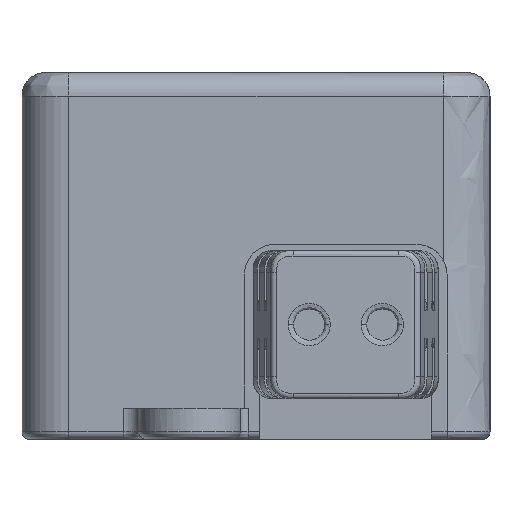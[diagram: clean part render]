
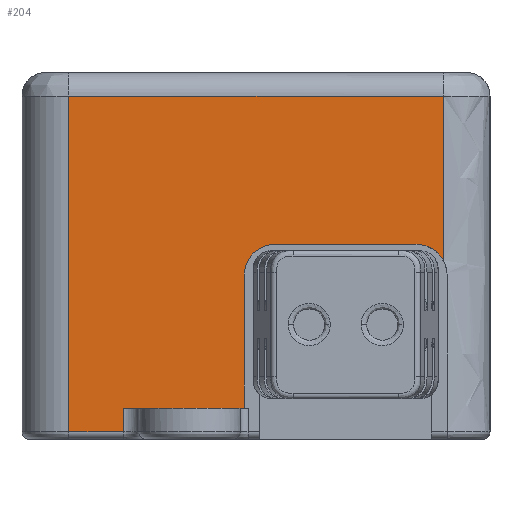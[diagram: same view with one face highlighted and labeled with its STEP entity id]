
A CAD part, left-side view. The second image highlights one B-rep face of the part: STEP entity #204.
In plain terms, the highlighted planar face has unit normal (-1, 0, 0).
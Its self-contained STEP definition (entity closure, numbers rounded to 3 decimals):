
#204=ADVANCED_FACE('',(#514),#4884,.T.);
#514=FACE_OUTER_BOUND('',#816,.T.);
#816=EDGE_LOOP('',(#1614,#1615,#1616,#1617,#1618,#1619,#1620,#1621,#1622,
#1623));
#1614=ORIENTED_EDGE('',*,*,#2787,.F.);
#1615=ORIENTED_EDGE('',*,*,#2984,.T.);
#1616=ORIENTED_EDGE('',*,*,#2718,.F.);
#1617=ORIENTED_EDGE('',*,*,#2985,.T.);
#1618=ORIENTED_EDGE('',*,*,#2996,.T.);
#1619=ORIENTED_EDGE('',*,*,#2735,.F.);
#1620=ORIENTED_EDGE('',*,*,#2704,.T.);
#1621=ORIENTED_EDGE('',*,*,#2770,.F.);
#1622=ORIENTED_EDGE('',*,*,#2983,.F.);
#1623=ORIENTED_EDGE('',*,*,#2795,.F.);
#2704=EDGE_CURVE('',#4304,#4305,#3440,.T.);
#2718=EDGE_CURVE('',#4312,#4313,#3698,.T.);
#2735=EDGE_CURVE('',#4304,#4326,#3707,.T.);
#2770=EDGE_CURVE('',#4338,#4305,#3720,.T.);
#2787=EDGE_CURVE('',#4344,#4345,#3724,.T.);
#2795=EDGE_CURVE('',#4345,#4349,#3727,.T.);
#2983=EDGE_CURVE('',#4349,#4338,#3840,.T.);
#2984=EDGE_CURVE('',#4344,#4313,#3841,.T.);
#2985=EDGE_CURVE('',#4312,#4484,#3842,.T.);
#2996=EDGE_CURVE('',#4484,#4326,#3576,.T.);
#3440=(
BOUNDED_CURVE()
B_SPLINE_CURVE(2,(#6550,#6551,#6552),.UNSPECIFIED.,.F.,.F.)
B_SPLINE_CURVE_WITH_KNOTS((3,3),(-2.358,0.),.UNSPECIFIED.)
CURVE()
GEOMETRIC_REPRESENTATION_ITEM()
RATIONAL_B_SPLINE_CURVE((1.,0.861,1.))
REPRESENTATION_ITEM('')
);
#3576=(
BOUNDED_CURVE()
B_SPLINE_CURVE(2,(#7342,#7343,#7344),.UNSPECIFIED.,.F.,.F.)
B_SPLINE_CURVE_WITH_KNOTS((3,3),(-4.,0.),.UNSPECIFIED.)
CURVE()
GEOMETRIC_REPRESENTATION_ITEM()
RATIONAL_B_SPLINE_CURVE((1.,0.707,1.))
REPRESENTATION_ITEM('')
);
#3698=B_SPLINE_CURVE_WITH_KNOTS('',1,(#6596,#6597),.UNSPECIFIED.,.F.,.F.,
(2,2),(0.,7.75),.UNSPECIFIED.);
#3707=B_SPLINE_CURVE_WITH_KNOTS('',1,(#6646,#6647),.UNSPECIFIED.,.F.,.F.,
(2,2),(0.,9.),.UNSPECIFIED.);
#3720=B_SPLINE_CURVE_WITH_KNOTS('',1,(#6744,#6745),.UNSPECIFIED.,.F.,.F.,
(2,2),(0.,10.532),.UNSPECIFIED.);
#3724=B_SPLINE_CURVE_WITH_KNOTS('',1,(#6795,#6796),.UNSPECIFIED.,.F.,.F.,
(2,2),(0.,3.5),.UNSPECIFIED.);
#3727=B_SPLINE_CURVE_WITH_KNOTS('',1,(#6816,#6817),.UNSPECIFIED.,.F.,.F.,
(2,2),(0.,21.5),.UNSPECIFIED.);
#3840=B_SPLINE_CURVE_WITH_KNOTS('',1,(#7311,#7312),.UNSPECIFIED.,.F.,.F.,
(2,2),(0.,24.),.UNSPECIFIED.);
#3841=B_SPLINE_CURVE_WITH_KNOTS('',1,(#7313,#7314),.UNSPECIFIED.,.F.,.F.,
(2,2),(0.,1.5),.UNSPECIFIED.);
#3842=B_SPLINE_CURVE_WITH_KNOTS('',1,(#7315,#7316),.UNSPECIFIED.,.F.,.F.,
(2,2),(0.,8.5),.UNSPECIFIED.);
#4304=VERTEX_POINT('',#6122);
#4305=VERTEX_POINT('',#6123);
#4312=VERTEX_POINT('',#6130);
#4313=VERTEX_POINT('',#6131);
#4326=VERTEX_POINT('',#6144);
#4338=VERTEX_POINT('',#6156);
#4344=VERTEX_POINT('',#6162);
#4345=VERTEX_POINT('',#6163);
#4349=VERTEX_POINT('',#6167);
#4484=VERTEX_POINT('',#6302);
#4884=PLANE('',#5037);
#5037=AXIS2_PLACEMENT_3D('',#5857,#5173,$);
#5173=DIRECTION('',(-1.,0.,0.));
#5857=CARTESIAN_POINT('',(-30.,23.75,-11.25));
#6122=CARTESIAN_POINT('',(-30.,1.5,0.75));
#6123=CARTESIAN_POINT('',(-30.,-0.25,-0.282));
#6130=CARTESIAN_POINT('',(-30.,12.5,-9.75));
#6131=CARTESIAN_POINT('',(-30.,20.25,-9.75));
#6144=CARTESIAN_POINT('',(-30.,10.5,0.75));
#6156=CARTESIAN_POINT('',(-30.,-0.25,10.25));
#6162=CARTESIAN_POINT('',(-30.,20.25,-11.25));
#6163=CARTESIAN_POINT('',(-30.,23.75,-11.25));
#6167=CARTESIAN_POINT('',(-30.,23.75,10.25));
#6302=CARTESIAN_POINT('',(-30.,12.5,-1.25));
#6550=CARTESIAN_POINT('',(-30.,1.5,0.75));
#6551=CARTESIAN_POINT('',(-30.,0.321,0.75));
#6552=CARTESIAN_POINT('',(-30.,-0.25,-0.282));
#6596=CARTESIAN_POINT('',(-30.,12.5,-9.75));
#6597=CARTESIAN_POINT('',(-30.,20.25,-9.75));
#6646=CARTESIAN_POINT('',(-30.,1.5,0.75));
#6647=CARTESIAN_POINT('',(-30.,10.5,0.75));
#6744=CARTESIAN_POINT('',(-30.,-0.25,10.25));
#6745=CARTESIAN_POINT('',(-30.,-0.25,-0.282));
#6795=CARTESIAN_POINT('',(-30.,20.25,-11.25));
#6796=CARTESIAN_POINT('',(-30.,23.75,-11.25));
#6816=CARTESIAN_POINT('',(-30.,23.75,-11.25));
#6817=CARTESIAN_POINT('',(-30.,23.75,10.25));
#7311=CARTESIAN_POINT('',(-30.,23.75,10.25));
#7312=CARTESIAN_POINT('',(-30.,-0.25,10.25));
#7313=CARTESIAN_POINT('',(-30.,20.25,-11.25));
#7314=CARTESIAN_POINT('',(-30.,20.25,-9.75));
#7315=CARTESIAN_POINT('',(-30.,12.5,-9.75));
#7316=CARTESIAN_POINT('',(-30.,12.5,-1.25));
#7342=CARTESIAN_POINT('',(-30.,12.5,-1.25));
#7343=CARTESIAN_POINT('',(-30.,12.5,0.75));
#7344=CARTESIAN_POINT('',(-30.,10.5,0.75));
